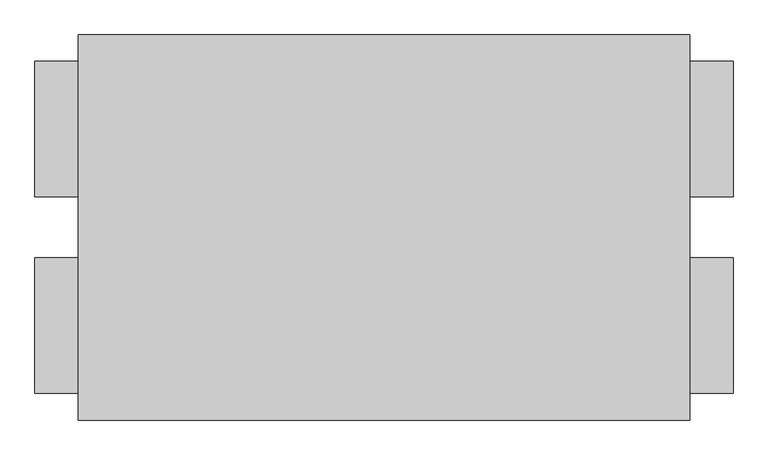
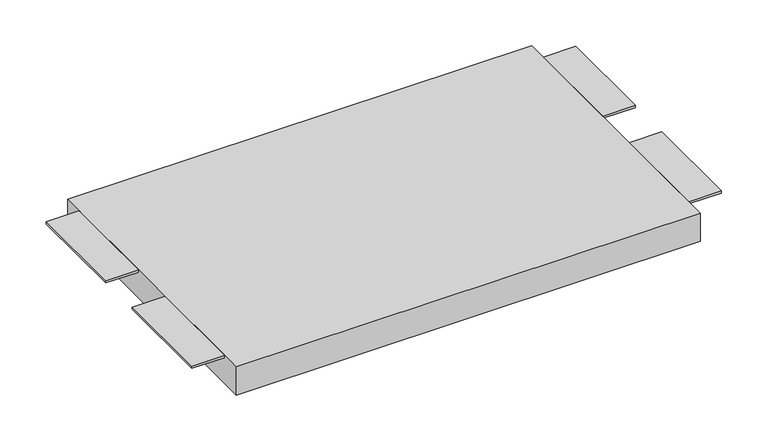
"""IFC4 building model written with IfcOpenShell, lengths in millimetres: proxy geometry, MILLS_ACRAM_CADRE_A_TRAPPE : trappe."""

from ifc_helpers import new_model, si_unit, frame, origin, place, context, project, spatial, polyline, outline, extrude, source, transform, mapped, element, save


def specialty_equipment_7a4cda6e(model_context):
    return source(origin(), model_context, "Body", "SweptSolid", [
        extrude(outline(polyline([(887.7215288, 31.0), (-46.2784712, 31.0), (-46.2784712, 619.0), (887.7215288, 619.0), (887.7215288, 31.0)])), frame((0.0, 0.0, -35.0), z_axis=(0.0, 0.0, 1.0), x_axis=(1.0, 0.0, 0.0)), (0.0, 0.0, 1.0), 60.0),
        extrude(outline(polyline([(887.7215288, 372.0), (887.7215288, 579.0), (953.7215288, 579.0), (953.7215288, 372.0), (887.7215288, 372.0)])), frame((0.0, 0.0, 20.0), z_axis=(0.0, 0.0, 1.0), x_axis=(1.0, 0.0, 0.0)), (0.0, 0.0, 1.0), 5.0),
        extrude(outline(polyline([(887.7215288, 72.0), (887.7215288, 279.0), (953.7215288, 279.0), (953.7215288, 72.0), (887.7215288, 72.0)])), frame((0.0, 0.0, 20.0), z_axis=(0.0, 0.0, 1.0), x_axis=(1.0, 0.0, 0.0)), (0.0, 0.0, 1.0), 5.0),
        extrude(outline(polyline([(-46.2784712, 372.0), (-112.2784712, 372.0), (-112.2784712, 579.0), (-46.2784712, 579.0), (-46.2784712, 372.0)])), frame((0.0, 0.0, 20.0), z_axis=(0.0, 0.0, 1.0), x_axis=(1.0, 0.0, 0.0)), (0.0, 0.0, 1.0), 5.0),
        extrude(outline(polyline([(-46.2784712, 72.0), (-112.2784712, 72.0), (-112.2784712, 279.0), (-46.2784712, 279.0), (-46.2784712, 72.0)])), frame((0.0, 0.0, 20.0), z_axis=(0.0, 0.0, 1.0), x_axis=(1.0, 0.0, 0.0)), (0.0, 0.0, 1.0), 5.0),
    ])


if __name__ == "__main__":
    model = new_model("IFC4")
    model_context = context("Model", 3, world=origin())
    ifc_project = project(units=[si_unit("LENGTHUNIT", "METRE", prefix="MILLI")], contexts=[model_context])
    site = spatial("IfcSite", under=ifc_project)
    building = spatial("IfcBuilding", under=site)
    placement = place(None, origin())
    specialty_equipment_shape = specialty_equipment_7a4cda6e(model_context)
    element("IfcBuildingElementProxy", 1, Name="MILLS_ACRAM_CADRE_A_TRAPPE : trappe", ObjectType="MILLS_ACRAM_CADRE_A_TRAPPE : trappe", at=placement, inside=building, context=model_context, shape_type="MappedRepresentation", body=[
        mapped(specialty_equipment_shape, transform((0.0, 0.0, 0.0), x_axis=(1.0, 0.0, 0.0), y_axis=(0.0, 1.0, 0.0), z_axis=(0.0, 0.0, 1.0))),
    ])
    save(model, "model.ifc")
